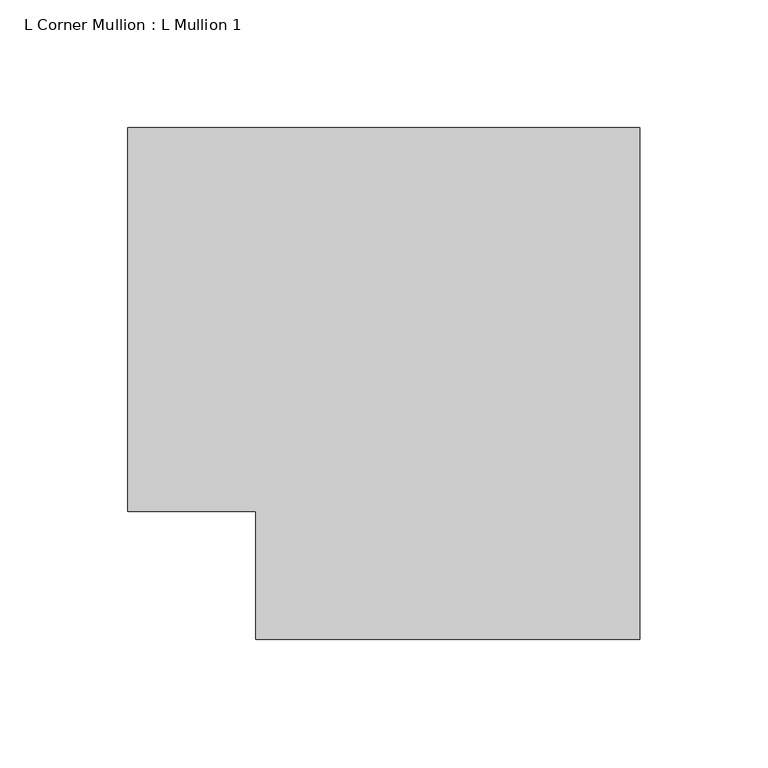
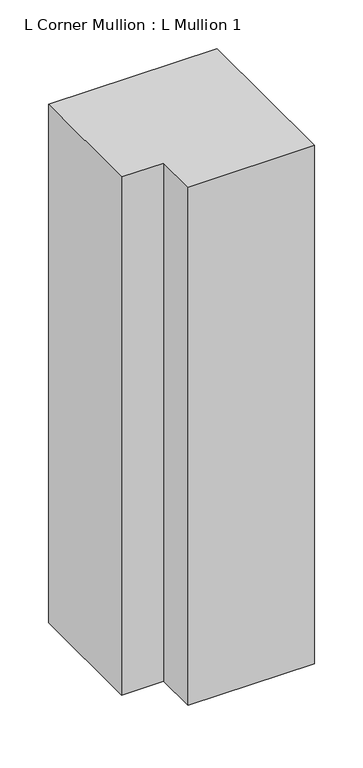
"""IFC4 building model written with IfcOpenShell, lengths in millimetres: member geometry, L Corner Mullion : L Mullion 1."""

import ifcopenshell
import ifcopenshell.guid

model = None  # the IFC model being written
_history = None  # IfcOwnerHistory: only IFC2X3 demands one
_inside = {}  # id of a spatial element -> (the spatial element, [elements in it])
_under = {}  # id of a project, library or spatial element -> (it, [spatial elements below it])
_declared = {}  # id of a project -> (the project, [libraries it declares])
_typed = {}  # id of a type object -> (the type object, [elements of that type])
_made_of = {}  # id of a material, layer set ... -> (it, [elements and type objects made of it])


def new_model(schema):
    """Start an empty IFC model of exactly this schema.

    Asked for "IFC4X3", IfcOpenShell would pick the latest addendum, in which some entities
    have other attributes; the version numbers below select the first issue.
    IFC2X3 requires an IfcOwnerHistory on every rooted entity: one is made here for all.
    """
    global model, _history
    if schema == "IFC4X3":
        model = ifcopenshell.file(schema_version=(4, 3, 0, 0))
    else:
        model = ifcopenshell.file(schema=schema)
    _inside.clear()
    _under.clear()
    _declared.clear()
    _typed.clear()
    _made_of.clear()
    _history = None
    if model.schema == "IFC2X3":
        org = make("IfcOrganization", Name="unknown")
        user = make(
            "IfcPersonAndOrganization",
            ThePerson=make("IfcPerson", FamilyName="unknown"),
            TheOrganization=org,
        )
        app = make(
            "IfcApplication",
            ApplicationDeveloper=org,
            Version="unknown",
            ApplicationFullName="unknown",
            ApplicationIdentifier="unknown",
        )
        _history = make(
            "IfcOwnerHistory",
            OwningUser=user,
            OwningApplication=app,
            ChangeAction="ADDED",
            CreationDate=0,
        )
    return model


def make(cls, **values):
    """One entity of the class cls with the attributes given. An attribute that is None is left unset."""
    return model.create_entity(
        cls, **{name: value for name, value in values.items() if value is not None}
    )


def rooted(cls, **values):
    """An entity with a GlobalId (a new one), such as an element, a storey or a relation."""
    return make(cls, GlobalId=ifcopenshell.guid.new(), OwnerHistory=_history, **values)


def si_unit(unit_type, name, prefix=None):
    """IfcSIUnit, for example si_unit("LENGTHUNIT", "METRE", prefix="MILLI")."""
    return make("IfcSIUnit", UnitType=unit_type, Prefix=prefix, Name=name)


def assignment(units):
    """IfcUnitAssignment: the units of a project."""
    return None if units is None else make("IfcUnitAssignment", Units=units)


def point(xyz):
    """IfcCartesianPoint."""
    return None if xyz is None else make("IfcCartesianPoint", Coordinates=xyz)


def direction(xyz):
    """IfcDirection."""
    return None if xyz is None else make("IfcDirection", DirectionRatios=xyz)


def frame(location, z_axis=None, x_axis=None):
    """IfcAxis2Placement3D, a coordinate frame: its origin and axes. An axis left out is left unset."""
    return make(
        "IfcAxis2Placement3D",
        Location=point(location),
        Axis=direction(z_axis),
        RefDirection=direction(x_axis),
    )


def origin():
    """The frame at (0, 0, 0) with its axes left unset."""
    return frame((0.0, 0.0, 0.0))


def place(relative_to, where):
    """IfcLocalPlacement: puts the frame where relative to a parent placement (None: the world)."""
    return make(
        "IfcLocalPlacement", PlacementRelTo=relative_to, RelativePlacement=where
    )


def context(
    kind, dimensions, precision=None, world=None, true_north=None, identifier=None
):
    """IfcGeometricRepresentationContext, for example the 3D "Model" context."""
    return make(
        "IfcGeometricRepresentationContext",
        ContextIdentifier=identifier,
        ContextType=kind,
        CoordinateSpaceDimension=dimensions,
        Precision=precision,
        WorldCoordinateSystem=world,
        TrueNorth=true_north,
    )


def project(units=None, contexts=None):
    """IfcProject with its units and contexts."""
    return rooted(
        "IfcProject",
        Name="project",
        RepresentationContexts=contexts,
        UnitsInContext=assignment(units),
    )


def spatial(cls, under=None, at=None, **own):
    """A site, building, storey or space (cls), placed at a placement, below another one or the project."""
    s = rooted(cls, ObjectPlacement=at, **own)
    if under is not None:
        _under.setdefault(under.id(), (under, []))[1].append(s)
    return s


def polyline(points):
    """IfcPolyline through the points."""
    return make("IfcPolyline", Points=[point(p) for p in points])


def outline(outer, holes=None, kind="AREA"):
    """IfcArbitraryClosedProfileDef: a profile drawn as a closed curve; with holes, ...WithVoids."""
    if holes is None:
        return make("IfcArbitraryClosedProfileDef", ProfileType=kind, OuterCurve=outer)
    return make(
        "IfcArbitraryProfileDefWithVoids",
        ProfileType=kind,
        OuterCurve=outer,
        InnerCurves=holes,
    )


def extrude(swept, where, along, depth):
    """IfcExtrudedAreaSolid: the profile swept, set in the frame where, extruded along a direction by depth."""
    return make(
        "IfcExtrudedAreaSolid",
        SweptArea=swept,
        Position=where,
        ExtrudedDirection=direction(along),
        Depth=depth,
    )


def shape(context_of_items, identifier, shape_type, items):
    """IfcShapeRepresentation: the items that make up one representation, for example the "Body"."""
    return make(
        "IfcShapeRepresentation",
        ContextOfItems=context_of_items,
        RepresentationIdentifier=identifier,
        RepresentationType=shape_type,
        Items=items,
    )


def source(mapping_origin, context_of_items, identifier, shape_type, items):
    """IfcRepresentationMap: a shape defined once, which mapped items show again and again."""
    return make(
        "IfcRepresentationMap",
        MappingOrigin=mapping_origin,
        MappedRepresentation=shape(context_of_items, identifier, shape_type, items),
    )


def transform(
    local_origin,
    x_axis=None,
    y_axis=None,
    z_axis=None,
    scale=None,
    scale2=None,
    scale3=None,
    uniform=True,
):
    """IfcCartesianTransformationOperator3D, or its non-uniform kind. x_axis, y_axis, z_axis: its Axis1, 2, 3."""
    if uniform:
        return make(
            "IfcCartesianTransformationOperator3D",
            Axis1=direction(x_axis),
            Axis2=direction(y_axis),
            LocalOrigin=point(local_origin),
            Scale=scale,
            Axis3=direction(z_axis),
        )
    return make(
        "IfcCartesianTransformationOperator3DnonUniform",
        Axis1=direction(x_axis),
        Axis2=direction(y_axis),
        LocalOrigin=point(local_origin),
        Scale=scale,
        Axis3=direction(z_axis),
        Scale2=scale2,
        Scale3=scale3,
    )


def mapped(mapping_source, mapping_target):
    """IfcMappedItem: shows the shape of a source again, moved by a transform."""
    return make(
        "IfcMappedItem", MappingSource=mapping_source, MappingTarget=mapping_target
    )


def made_of(thing, what):
    """Note that an element or type object is made of a material, layer set ...; save() writes the relation."""
    if what is not None:
        _made_of.setdefault(what.id(), (what, []))[1].append(thing)
    return thing


def element(
    cls,
    number,
    at=None,
    inside=None,
    cuts=None,
    type_object=None,
    material=None,
    context=None,
    identifier="Body",
    shape_type=None,
    held_by="IfcProductDefinitionShape",
    body=None,
    shapes=None,
    **own,
):
    """One element of the class cls, such as IfcWall. Its Tag is "e" and its number.

    at: its placement. inside: the storey or other place that contains it. cuts: it is an
    opening in that element (IfcRelVoidsElement). A single representation is given by context,
    identifier, shape_type and body (its items); several are given by shapes. held_by: the class
    of the entity that holds the representations. save() writes the other relations.
    """
    e = rooted(cls, Tag="e%d" % number, ObjectPlacement=at, **own)
    if body is not None:
        shapes = [shape(context, identifier, shape_type, body)]
    if shapes is not None:
        e.Representation = make(held_by, Representations=shapes)
    if inside is not None:
        _inside.setdefault(inside.id(), (inside, []))[1].append(e)
    if cuts is not None:
        rooted(
            "IfcRelVoidsElement", RelatingBuildingElement=cuts, RelatedOpeningElement=e
        )
    if type_object is not None:
        _typed.setdefault(type_object.id(), (type_object, []))[1].append(e)
    return made_of(e, material)


def aggregate(whole, parts):
    """IfcRelAggregates: a whole, such as a stair, and the parts it consists of."""
    return rooted("IfcRelAggregates", RelatingObject=whole, RelatedObjects=parts)


def save(model, path):
    """Write the relations noted so far, then the file.

    IfcRelAggregates (storeys below a building ...), IfcRelContainedInSpatialStructure (elements
    in a storey), IfcRelDefinesByType, IfcRelAssociatesMaterial and IfcRelDeclares: one each for
    every whole, place, type object, material and project.
    """
    for whole, parts in _under.values():
        aggregate(whole, parts)
    for where, things in _inside.values():
        rooted(
            "IfcRelContainedInSpatialStructure",
            RelatedElements=things,
            RelatingStructure=where,
        )
    for kind, things in _typed.values():
        rooted("IfcRelDefinesByType", RelatedObjects=things, RelatingType=kind)
    for what, things in _made_of.values():
        rooted("IfcRelAssociatesMaterial", RelatedObjects=things, RelatingMaterial=what)
    for by, libraries in _declared.values():
        rooted("IfcRelDeclares", RelatingContext=by, RelatedDefinitions=libraries)
    model.write(path)


def l_corner_mullion_l_mullion_1_b1a998e5(model_context):
    return source(origin(), model_context, "Body", "SweptSolid", [
        extrude(outline(polyline([(-75.0, -125.0), (-75.0, -75.0), (-125.0, -75.0), (-125.0, 75.0), (75.0, 75.0), (75.0, -125.0), (-75.0, -125.0)])), frame((0.0, 0.0, -650.0), z_axis=(0.0, 0.0, 1.0), x_axis=(1.0, 0.0, 0.0)), (0.0, 0.0, 1.0), 650.0),
    ])


if __name__ == "__main__":
    model = new_model("IFC4")
    model_context = context("Model", 3, world=origin())
    ifc_project = project(units=[si_unit("LENGTHUNIT", "METRE", prefix="MILLI")], contexts=[model_context])
    site = spatial("IfcSite", under=ifc_project)
    building = spatial("IfcBuilding", under=site)
    placement = place(None, origin())
    l_corner_mullion_l_mullion_1_shape = l_corner_mullion_l_mullion_1_b1a998e5(model_context)
    element("IfcMember", 1, ObjectType="L Corner Mullion : L Mullion 1", at=placement, inside=building, context=model_context, shape_type="MappedRepresentation", body=[
        mapped(l_corner_mullion_l_mullion_1_shape, transform((0.0, 0.0, 0.0), x_axis=(1.0, 0.0, 0.0), y_axis=(0.0, 1.0, 0.0), z_axis=(0.0, 0.0, 1.0))),
    ])
    save(model, "model.ifc")
